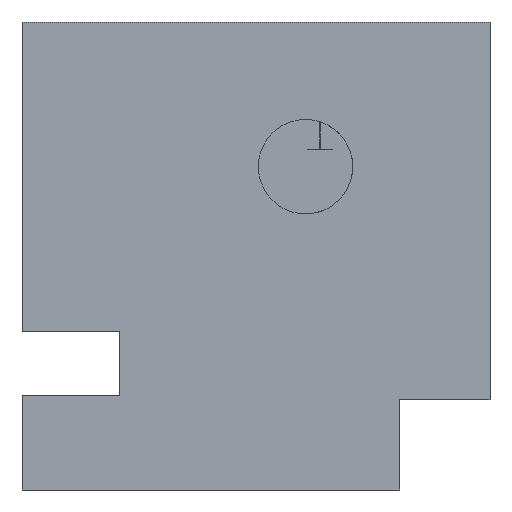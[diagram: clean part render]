
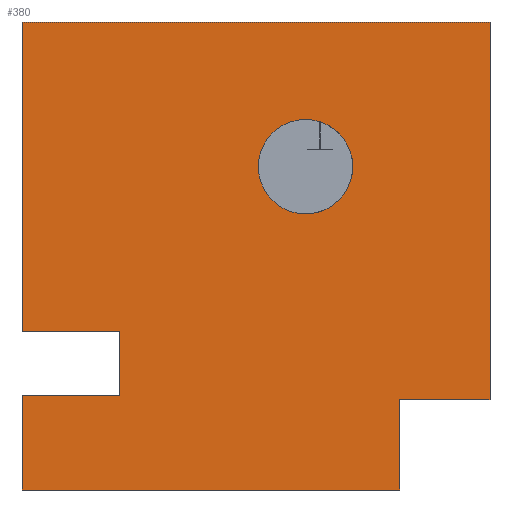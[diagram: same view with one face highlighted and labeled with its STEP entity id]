
A CAD part, left-side view. The second image highlights one B-rep face of the part: STEP entity #380.
In plain terms, the highlighted planar face has unit normal (-1, 0, 0).
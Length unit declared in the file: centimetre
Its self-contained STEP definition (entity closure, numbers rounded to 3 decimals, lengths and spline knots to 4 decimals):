
#18 = FACE_BOUND ( 'NONE', #967, .T. ) ;
#40 = DIRECTION ( 'NONE',  ( 0., 0., -1. ) ) ;
#47 = CARTESIAN_POINT ( 'NONE',  ( 0., 790.6973, 338.0467 ) ) ;
#57 = DIRECTION ( 'NONE',  ( -1., 0., 0. ) ) ;
#89 = CARTESIAN_POINT ( 'NONE',  ( 0., 1000., 1000. ) ) ;
#99 = CARTESIAN_POINT ( 'NONE',  ( 0., 0., 193.1329 ) ) ;
#129 = CIRCLE ( 'NONE', #799, 100.9779 ) ;
#151 = EDGE_CURVE ( 'NONE', #431, #314, #622, .T. ) ;
#178 = VERTEX_POINT ( 'NONE', #99 ) ;
#179 = VERTEX_POINT ( 'NONE', #381 ) ;
#196 = CARTESIAN_POINT ( 'NONE',  ( 0., 192.701, 193.1329 ) ) ;
#202 = DIRECTION ( 'NONE',  ( 0., 0., -1. ) ) ;
#205 = LINE ( 'NONE', #1361, #754 ) ;
#212 = DIRECTION ( 'NONE',  ( 0., -1., 0. ) ) ;
#226 = VECTOR ( 'NONE', #1190, 100. ) ;
#258 = DIRECTION ( 'NONE',  ( 0., -1., 0. ) ) ;
#259 = ORIENTED_EDGE ( 'NONE', *, *, #1311, .T. ) ;
#263 = DIRECTION ( 'NONE',  ( 0., -1., 0. ) ) ;
#314 = VERTEX_POINT ( 'NONE', #649 ) ;
#327 = VECTOR ( 'NONE', #842, 100. ) ;
#338 = DIRECTION ( 'NONE',  ( 0., -1., 0. ) ) ;
#343 = ORIENTED_EDGE ( 'NONE', *, *, #1637, .F. ) ;
#355 = CARTESIAN_POINT ( 'NONE',  ( 0., 1000., 0. ) ) ;
#362 = EDGE_CURVE ( 'NONE', #931, #178, #928, .T. ) ;
#376 = VECTOR ( 'NONE', #263, 100. ) ;
#380 = ADVANCED_FACE ( 'NONE', ( #18, #676 ), #517, .F. ) ;
#381 = CARTESIAN_POINT ( 'NONE',  ( 0., 394.1282, 589.8317 ) ) ;
#431 = VERTEX_POINT ( 'NONE', #1593 ) ;
#442 = VERTEX_POINT ( 'NONE', #47 ) ;
#465 = DIRECTION ( 'NONE',  ( 0., 0., 1. ) ) ;
#469 = CARTESIAN_POINT ( 'NONE',  ( 0., 1000., 1000. ) ) ;
#481 = CARTESIAN_POINT ( 'NONE',  ( 0., 1000., 0. ) ) ;
#510 = EDGE_CURVE ( 'NONE', #963, #179, #129, .T. ) ;
#517 = PLANE ( 'NONE',  #1284 ) ;
#522 = DIRECTION ( 'NONE',  ( 1., 0., 0. ) ) ;
#544 = LINE ( 'NONE', #1043, #226 ) ;
#570 = ORIENTED_EDGE ( 'NONE', *, *, #362, .T. ) ;
#585 = EDGE_LOOP ( 'NONE', ( #343, #1194, #259, #1212, #1150, #570, #901, #876, #1477, #1554 ) ) ;
#600 = LINE ( 'NONE', #994, #327 ) ;
#622 = LINE ( 'NONE', #1392, #1369 ) ;
#649 = CARTESIAN_POINT ( 'NONE',  ( 0., 0., 1000. ) ) ;
#661 = LINE ( 'NONE', #1297, #727 ) ;
#669 = CARTESIAN_POINT ( 'NONE',  ( 0., 192.701, 0. ) ) ;
#676 = FACE_OUTER_BOUND ( 'NONE', #585, .T. ) ;
#698 = VECTOR ( 'NONE', #1310, 100. ) ;
#700 = CARTESIAN_POINT ( 'NONE',  ( 0., 394.1282, 690.8095 ) ) ;
#727 = VECTOR ( 'NONE', #912, 100. ) ;
#730 = AXIS2_PLACEMENT_3D ( 'NONE', #700, #1596, #1604 ) ;
#739 = LINE ( 'NONE', #89, #1527 ) ;
#754 = VECTOR ( 'NONE', #212, 100. ) ;
#780 = CARTESIAN_POINT ( 'NONE',  ( 0., 0., 193.1329 ) ) ;
#799 = AXIS2_PLACEMENT_3D ( 'NONE', #1344, #57, #465 ) ;
#825 = ORIENTED_EDGE ( 'NONE', *, *, #510, .F. ) ;
#842 = DIRECTION ( 'NONE',  ( 0., 0., 1. ) ) ;
#859 = CIRCLE ( 'NONE', #730, 100.9779 ) ;
#876 = ORIENTED_EDGE ( 'NONE', *, *, #151, .F. ) ;
#901 = ORIENTED_EDGE ( 'NONE', *, *, #1133, .F. ) ;
#912 = DIRECTION ( 'NONE',  ( 0., 0., -1. ) ) ;
#916 = EDGE_CURVE ( 'NONE', #431, #1321, #739, .T. ) ;
#928 = LINE ( 'NONE', #780, #376 ) ;
#931 = VERTEX_POINT ( 'NONE', #196 ) ;
#941 = EDGE_CURVE ( 'NONE', #1523, #1646, #1599, .T. ) ;
#960 = VERTEX_POINT ( 'NONE', #1086 ) ;
#963 = VERTEX_POINT ( 'NONE', #1512 ) ;
#967 = EDGE_LOOP ( 'NONE', ( #825, #1559 ) ) ;
#970 = EDGE_CURVE ( 'NONE', #960, #1487, #205, .T. ) ;
#994 = CARTESIAN_POINT ( 'NONE',  ( 0., 192.701, 0. ) ) ;
#996 = DIRECTION ( 'NONE',  ( 0., 0., -1. ) ) ;
#1043 = CARTESIAN_POINT ( 'NONE',  ( 0., 790.6973, 338.0467 ) ) ;
#1086 = CARTESIAN_POINT ( 'NONE',  ( 0., 1000., 201.7493 ) ) ;
#1103 = CARTESIAN_POINT ( 'NONE',  ( 0., 1000., 338.0467 ) ) ;
#1133 = EDGE_CURVE ( 'NONE', #314, #178, #661, .T. ) ;
#1150 = ORIENTED_EDGE ( 'NONE', *, *, #1281, .T. ) ;
#1173 = VECTOR ( 'NONE', #338, 100. ) ;
#1181 = EDGE_CURVE ( 'NONE', #442, #1321, #544, .T. ) ;
#1187 = CARTESIAN_POINT ( 'NONE',  ( 0., 1000., 1000. ) ) ;
#1190 = DIRECTION ( 'NONE',  ( 0., 1., 0. ) ) ;
#1194 = ORIENTED_EDGE ( 'NONE', *, *, #970, .F. ) ;
#1212 = ORIENTED_EDGE ( 'NONE', *, *, #941, .T. ) ;
#1262 = EDGE_CURVE ( 'NONE', #179, #963, #859, .T. ) ;
#1281 = EDGE_CURVE ( 'NONE', #1646, #931, #600, .T. ) ;
#1284 = AXIS2_PLACEMENT_3D ( 'NONE', #1187, #522, #40 ) ;
#1288 = VECTOR ( 'NONE', #202, 100. ) ;
#1297 = CARTESIAN_POINT ( 'NONE',  ( 0., 0., 1000. ) ) ;
#1310 = DIRECTION ( 'NONE',  ( 0., 0., 1. ) ) ;
#1311 = EDGE_CURVE ( 'NONE', #960, #1523, #1348, .T. ) ;
#1321 = VERTEX_POINT ( 'NONE', #1103 ) ;
#1344 = CARTESIAN_POINT ( 'NONE',  ( 0., 394.1282, 690.8095 ) ) ;
#1348 = LINE ( 'NONE', #469, #1288 ) ;
#1361 = CARTESIAN_POINT ( 'NONE',  ( 0., 790.6973, 201.7493 ) ) ;
#1369 = VECTOR ( 'NONE', #258, 100. ) ;
#1392 = CARTESIAN_POINT ( 'NONE',  ( 0., 1000., 1000. ) ) ;
#1421 = LINE ( 'NONE', #1438, #698 ) ;
#1438 = CARTESIAN_POINT ( 'NONE',  ( 0., 790.6973, 201.7493 ) ) ;
#1477 = ORIENTED_EDGE ( 'NONE', *, *, #916, .T. ) ;
#1487 = VERTEX_POINT ( 'NONE', #1656 ) ;
#1512 = CARTESIAN_POINT ( 'NONE',  ( 0., 394.1282, 791.7874 ) ) ;
#1523 = VERTEX_POINT ( 'NONE', #481 ) ;
#1527 = VECTOR ( 'NONE', #996, 100. ) ;
#1554 = ORIENTED_EDGE ( 'NONE', *, *, #1181, .F. ) ;
#1559 = ORIENTED_EDGE ( 'NONE', *, *, #1262, .F. ) ;
#1593 = CARTESIAN_POINT ( 'NONE',  ( 0., 1000., 1000. ) ) ;
#1596 = DIRECTION ( 'NONE',  ( -1., 0., 0. ) ) ;
#1599 = LINE ( 'NONE', #355, #1173 ) ;
#1604 = DIRECTION ( 'NONE',  ( 0., 0., 1. ) ) ;
#1637 = EDGE_CURVE ( 'NONE', #1487, #442, #1421, .T. ) ;
#1646 = VERTEX_POINT ( 'NONE', #669 ) ;
#1656 = CARTESIAN_POINT ( 'NONE',  ( 0., 790.6973, 201.7493 ) ) ;
